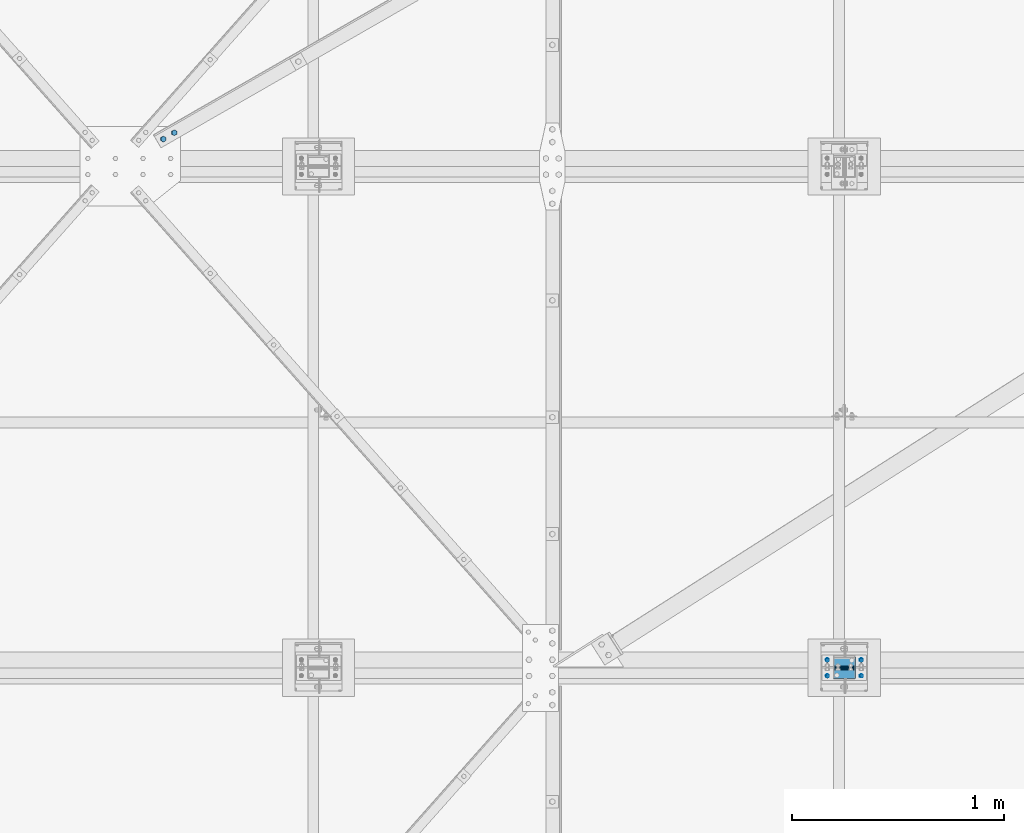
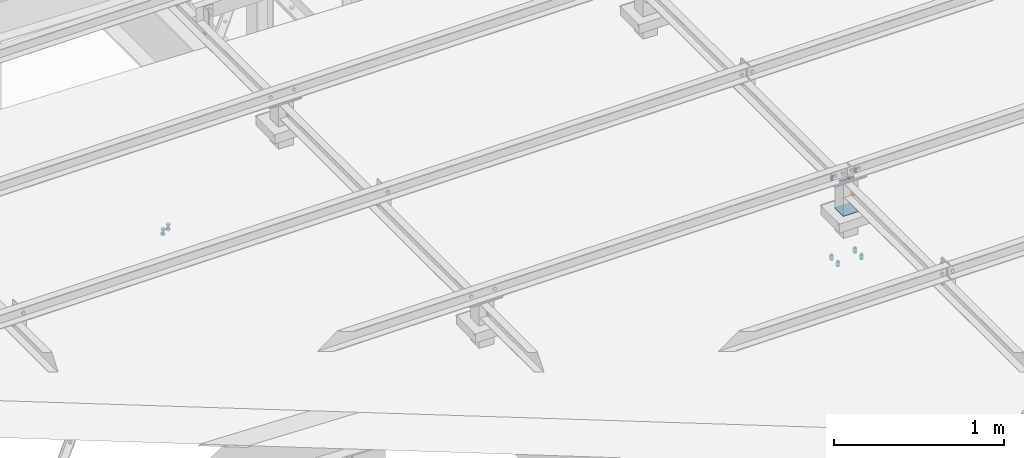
# One storey, part 331 of 3134: 6 mechanical fasteners, 5 elements without a shape of their own.
"""IFC2X3 building model written with IfcOpenShell, lengths in millimetres."""

from ifc_helpers import new_model, si_unit, frame, origin_with_axes, place, context, subcontext, project, spatial, faceted_brep, source, transform, mapped, material, type_object, element, aggregate, save


model = new_model("IFC2X3")

# Units and contexts
model_context = context("Model", 3, precision=1e-05, world=origin_with_axes())
body_context = subcontext(model_context, "Body", "Model", "MODEL_VIEW")
ifc_project = project(units=[si_unit("LENGTHUNIT", "METRE", prefix="MILLI"), si_unit("AREAUNIT", "SQUARE_METRE"), si_unit("VOLUMEUNIT", "CUBIC_METRE"), si_unit("MASSUNIT", "GRAM", prefix="KILO"), si_unit("TIMEUNIT", "SECOND"), si_unit("PLANEANGLEUNIT", "RADIAN"), si_unit("SOLIDANGLEUNIT", "STERADIAN"), si_unit("THERMODYNAMICTEMPERATUREUNIT", "DEGREE_CELSIUS"), si_unit("LUMINOUSINTENSITYUNIT", "LUMEN")], contexts=[model_context])

# Site, building, storey
site_placement = place(None, origin_with_axes())
site = spatial("IfcSite", under=ifc_project, at=site_placement, CompositionType="ELEMENT")
building_placement = place(site_placement, origin_with_axes())
building = spatial("IfcBuilding", under=site, at=building_placement, Name="Undefined", CompositionType="ELEMENT")
storey_placement = place(building_placement, origin_with_axes())
storey = spatial("IfcBuildingStorey", under=building, at=storey_placement, Name="Undefined", CompositionType="ELEMENT", Elevation=0.0)

# Assembly, mechanical fastener
assembly_1_placement = place(storey_placement, origin_with_axes())
assembly_1 = element("IfcElementAssembly", 1, at=assembly_1_placement, inside=storey, AssemblyPlace="NOTDEFINED", PredefinedType="RIGID_FRAME")
ifc_material_1 = material(Name="8.8")
mechanical_fastener_type = type_object("IfcMechanicalFastenerType", Name="Bolt assembly")
shared_shape_1 = source(origin_with_axes(), body_context, "Body", "Brep", [
    faceted_brep([(10.9696551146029, -14.0, 0.0), (5.48482755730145, -14.0, 9.5), (-5.48482755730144, -14.0, 9.5), (-10.9696551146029, -14.0, 1.34339530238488e-15), (-5.48482755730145, -14.0, -9.5), (5.48482755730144, -14.0, -9.50000000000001), (5.48482755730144, -6.0, -9.50000000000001), (-5.48482755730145, -6.0, -9.5), (-10.9696551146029, -6.0, 1.34339530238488e-15), (-5.48482755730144, -6.0, 9.5), (5.48482755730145, -6.0, 9.5), (10.9696551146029, -6.0, 0.0), (6.0, -6.0, 0.0), (5.19615242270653, -6.0, 3.00000000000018), (2.99999999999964, -6.0, 5.19615242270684), (-6.21801588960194e-13, -6.0, 6.0), (-3.00000000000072, -6.0, 5.19615242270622), (-5.19615242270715, -6.0, 2.9999999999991), (-6.0, -6.0, -1.24360317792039e-12), (-5.19615242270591, -6.0, -3.00000000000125), (-2.99999999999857, -6.0, -5.19615242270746), (1.85874342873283e-12, -6.0, -6.0), (3.00000000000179, -6.0, -5.1961524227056), (5.19615242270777, -6.0, -2.99999999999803), (5.19615242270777, 24.0, -2.99999999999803), (3.00000000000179, 24.0, -5.1961524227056), (1.85874342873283e-12, 24.0, -6.0), (-2.99999999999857, 24.0, -5.19615242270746), (-5.19615242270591, 24.0, -3.00000000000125), (-6.0, 24.0, -1.24360317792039e-12), (-5.19615242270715, 24.0, 2.9999999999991), (-3.00000000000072, 24.0, 5.19615242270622), (-6.21801588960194e-13, 24.0, 6.0), (2.99999999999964, 24.0, 5.19615242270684), (5.19615242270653, 24.0, 3.00000000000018), (6.0, 24.0, 0.0), (10.9696551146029, 6.00000000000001, 0.0), (5.48482755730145, 6.00000000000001, 9.5), (-5.48482755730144, 6.00000000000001, 9.5), (-10.9696551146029, 6.00000000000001, 1.34339530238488e-15), (-5.48482755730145, 6.00000000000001, -9.5), (5.48482755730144, 6.00000000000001, -9.50000000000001), (5.48482755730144, 16.0, -9.50000000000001), (-5.48482755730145, 16.0, -9.5), (-10.9696551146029, 16.0, 1.34339530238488e-15), (-5.48482755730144, 16.0, 9.5), (5.48482755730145, 16.0, 9.5), (10.9696551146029, 16.0, 0.0)], [[[0, 1, 2, 3, 4, 5]], [[6, 7, 8, 9, 10, 11]], [[0, 11, 10, 1]], [[1, 10, 9, 2]], [[2, 9, 8, 3]], [[3, 8, 7, 4]], [[4, 7, 6, 5]], [[5, 6, 11, 0]], [[12, 13, 14, 15, 16, 17, 18, 19, 20, 21, 22, 23]], [[24, 25, 26, 27, 28, 29, 30, 31, 32, 33, 34, 35]], [[12, 35, 34, 13]], [[13, 34, 33, 14]], [[14, 33, 32, 15]], [[15, 32, 31, 16]], [[16, 31, 30, 17]], [[17, 30, 29, 18]], [[18, 29, 28, 19]], [[19, 28, 27, 20]], [[20, 27, 26, 21]], [[21, 26, 25, 22]], [[22, 25, 24, 23]], [[23, 24, 35, 12]], [[36, 37, 38, 39, 40, 41]], [[42, 43, 44, 45, 46, 47]], [[36, 47, 46, 37]], [[37, 46, 45, 38]], [[38, 45, 44, 39]], [[39, 44, 43, 40]], [[40, 43, 42, 41]], [[41, 42, 47, 36]]]),
    faceted_brep([(7.0, -0.1, 0.0), (6.06217782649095, -0.1, 3.50000000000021), (3.49999999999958, -0.1, 6.06217782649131), (-7.25435187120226e-13, -0.1, 7.0), (-3.50000000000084, -0.1, 6.06217782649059), (-6.06217782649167, -0.1, 3.49999999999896), (-7.0, -0.1, -1.45087037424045e-12), (-6.06217782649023, -0.1, -3.50000000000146), (-3.49999999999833, -0.1, -6.06217782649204), (2.1685340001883e-12, -0.1, -7.0), (3.50000000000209, -0.1, -6.06217782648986), (6.0621778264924, -0.1, -3.4999999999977), (6.0621778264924, 6.00000000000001, -3.4999999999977), (3.50000000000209, 6.00000000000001, -6.06217782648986), (2.1685340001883e-12, 6.00000000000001, -7.0), (-3.49999999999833, 6.00000000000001, -6.06217782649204), (-6.06217782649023, 6.00000000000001, -3.50000000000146), (-7.0, 6.00000000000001, -1.45087037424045e-12), (-6.06217782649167, 6.00000000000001, 3.49999999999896), (-3.50000000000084, 6.00000000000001, 6.06217782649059), (-7.25435187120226e-13, 6.00000000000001, 7.0), (3.49999999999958, 6.00000000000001, 6.06217782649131), (6.06217782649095, 6.00000000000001, 3.50000000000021), (7.0, 6.00000000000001, 0.0), (7.0, -5.9, 0.0), (6.06217782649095, -5.9, 3.50000000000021), (3.49999999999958, -5.9, 6.06217782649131), (-7.25435187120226e-13, -5.9, 7.0), (-3.50000000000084, -5.9, 6.06217782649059), (-6.06217782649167, -5.9, 3.49999999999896), (-7.0, -5.9, -1.45087037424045e-12), (-6.06217782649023, -5.9, -3.50000000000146), (-3.49999999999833, -5.9, -6.06217782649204), (2.1685340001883e-12, -5.9, -7.0), (3.50000000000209, -5.9, -6.06217782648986), (6.0621778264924, -5.9, -3.4999999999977), (6.0621778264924, 0.0999999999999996, -3.4999999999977), (3.50000000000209, 0.0999999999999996, -6.06217782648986), (2.1685340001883e-12, 0.0999999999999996, -7.0), (-3.49999999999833, 0.0999999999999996, -6.06217782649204), (-6.06217782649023, 0.0999999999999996, -3.50000000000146), (-7.0, 0.0999999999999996, -1.45087037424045e-12), (-6.06217782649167, 0.0999999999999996, 3.49999999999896), (-3.50000000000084, 0.0999999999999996, 6.06217782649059), (-7.25435187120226e-13, 0.0999999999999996, 7.0), (3.49999999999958, 0.0999999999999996, 6.06217782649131), (6.06217782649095, 0.0999999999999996, 3.50000000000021), (7.0, 0.0999999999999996, 0.0)], [[[0, 1, 2, 3, 4, 5, 6, 7, 8, 9, 10, 11]], [[12, 13, 14, 15, 16, 17, 18, 19, 20, 21, 22, 23]], [[0, 23, 22, 1]], [[1, 22, 21, 2]], [[2, 21, 20, 3]], [[3, 20, 19, 4]], [[4, 19, 18, 5]], [[5, 18, 17, 6]], [[6, 17, 16, 7]], [[7, 16, 15, 8]], [[8, 15, 14, 9]], [[9, 14, 13, 10]], [[10, 13, 12, 11]], [[11, 12, 23, 0]], [[24, 25, 26, 27, 28, 29, 30, 31, 32, 33, 34, 35]], [[36, 37, 38, 39, 40, 41, 42, 43, 44, 45, 46, 47]], [[24, 47, 46, 25]], [[25, 46, 45, 26]], [[26, 45, 44, 27]], [[27, 44, 43, 28]], [[28, 43, 42, 29]], [[29, 42, 41, 30]], [[30, 41, 40, 31]], [[31, 40, 39, 32]], [[32, 39, 38, 33]], [[33, 38, 37, 34]], [[34, 37, 36, 35]], [[35, 36, 47, 24]]]),
])
mechanical_fastener_1_placement = place(assembly_1_placement, frame((73075.0, 10045.0, 5850.0), z_axis=(1.0, 0.0, 0.0), x_axis=(0.0, -1.0, 0.0)))
mechanical_fastener_1 = element("IfcMechanicalFastener", 2, at=mechanical_fastener_1_placement, type_object=mechanical_fastener_type, material=ifc_material_1, Name="Bolt assembly", NominalDiameter=12.0, NominalLength=30.0, context=body_context, shape_type="MappedRepresentation", body=[
    mapped(shared_shape_1, transform((0.0, -5.32963895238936e-10, -79.9999999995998))),
    mapped(shared_shape_1, transform((0.0, 5.3114490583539e-10, 79.9999999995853))),
])
aggregate(assembly_1, [mechanical_fastener_1])

assembly_2_placement = place(storey_placement, origin_with_axes())
assembly_2 = element("IfcElementAssembly", 3, at=assembly_2_placement, inside=storey, AssemblyPlace="NOTDEFINED", PredefinedType="RIGID_FRAME")
shared_shape_2 = source(origin_with_axes(), body_context, "Body", "Brep", [
    faceted_brep([(7.0, 13.0000253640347, 0.0), (6.06217782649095, 13.0000253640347, 3.50000000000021), (3.49999999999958, 13.0000253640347, 6.06217782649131), (-7.25435187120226e-13, 13.0000253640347, 7.0), (-3.50000000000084, 13.0000253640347, 6.06217782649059), (-6.06217782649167, 13.0000253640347, 3.49999999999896), (-7.0, 13.0000253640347, -1.45087037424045e-12), (-6.06217782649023, 13.0000253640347, -3.50000000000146), (-3.49999999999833, 13.0000253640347, -6.06217782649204), (2.1685340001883e-12, 13.0000253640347, -7.0), (3.50000000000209, 13.0000253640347, -6.06217782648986), (6.0621778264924, 13.0000253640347, -3.4999999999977), (6.0621778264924, 15.0999999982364, -3.4999999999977), (3.50000000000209, 15.0999999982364, -6.06217782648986), (2.1685340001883e-12, 15.0999999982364, -7.0), (-3.49999999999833, 15.0999999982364, -6.06217782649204), (-6.06217782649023, 15.0999999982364, -3.50000000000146), (-7.0, 15.0999999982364, -1.45087037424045e-12), (-6.06217782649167, 15.0999999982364, 3.49999999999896), (-3.50000000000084, 15.0999999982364, 6.06217782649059), (-7.25435187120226e-13, 15.0999999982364, 7.0), (3.49999999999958, 15.0999999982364, 6.06217782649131), (6.06217782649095, 15.0999999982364, 3.50000000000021), (7.0, 15.0999999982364, 0.0)], [[[0, 1, 2, 3, 4, 5, 6, 7, 8, 9, 10, 11]], [[12, 13, 14, 15, 16, 17, 18, 19, 20, 21, 22, 23]], [[0, 23, 22, 1]], [[1, 22, 21, 2]], [[2, 21, 20, 3]], [[3, 20, 19, 4]], [[4, 19, 18, 5]], [[5, 18, 17, 6]], [[6, 17, 16, 7]], [[7, 16, 15, 8]], [[8, 15, 14, 9]], [[9, 14, 13, 10]], [[10, 13, 12, 11]], [[11, 12, 23, 0]]]),
])
mechanical_fastener_2_placement = place(assembly_2_placement, frame((73074.3451187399, 10048.0, 5255.7372055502), z_axis=(-0.99951962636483, 0.0, 0.0309922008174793), x_axis=(0.0, -1.0, 0.0)))
mechanical_fastener_2 = element("IfcMechanicalFastener", 4, at=mechanical_fastener_2_placement, type_object=mechanical_fastener_type, material=ifc_material_1, Name="Bolt assembly", NominalDiameter=12.0, NominalLength=2.0, context=body_context, shape_type="MappedRepresentation", body=[
    mapped(shared_shape_2, transform((0.0, -5.32963895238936e-10, -79.9999999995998))),
    mapped(shared_shape_2, transform((76.0, -5.32963895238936e-10, -79.9999999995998))),
    mapped(shared_shape_2, transform((0.0, 5.3114490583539e-10, 79.9999999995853))),
    mapped(shared_shape_2, transform((76.0, 5.3114490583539e-10, 79.9999999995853))),
])
aggregate(assembly_2, [mechanical_fastener_2])

# Assembly, mechanical fasteners
assembly_3_placement = place(storey_placement, origin_with_axes())
assembly_3 = element("IfcElementAssembly", 5, at=assembly_3_placement, inside=storey, AssemblyPlace="NOTDEFINED", PredefinedType="RIGID_FRAME")
shared_shape_3 = source(origin_with_axes(), body_context, "Body", "Brep", [
    faceted_brep([(9.0, -50.0, 0.0), (7.79422863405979, -50.0, 4.50000000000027), (4.49999999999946, -50.0, 7.79422863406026), (-9.3270238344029e-13, -50.0, 9.0), (-4.50000000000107, -50.0, 7.79422863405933), (-7.79422863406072, -50.0, 4.49999999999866), (-9.0, -50.0, -1.86540476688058e-12), (-7.79422863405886, -50.0, -4.50000000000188), (-4.49999999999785, -50.0, -7.79422863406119), (2.78811514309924e-12, -50.0, -9.0), (4.50000000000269, -50.0, -7.7942286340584), (7.79422863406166, -50.0, -4.49999999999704), (7.79422863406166, 50.1, -4.49999999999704), (4.50000000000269, 50.1, -7.7942286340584), (2.78811514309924e-12, 50.1, -9.0), (-4.49999999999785, 50.1, -7.79422863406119), (-7.79422863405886, 50.1, -4.50000000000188), (-9.0, 50.1, -1.86540476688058e-12), (-7.79422863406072, 50.1, 4.49999999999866), (-4.50000000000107, 50.1, 7.79422863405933), (-9.3270238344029e-13, 50.1, 9.0), (4.49999999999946, 50.1, 7.79422863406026), (7.79422863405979, 50.1, 4.50000000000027), (9.0, 50.1, 0.0)], [[[0, 1, 2, 3, 4, 5, 6, 7, 8, 9, 10, 11]], [[12, 13, 14, 15, 16, 17, 18, 19, 20, 21, 22, 23]], [[0, 23, 22, 1]], [[1, 22, 21, 2]], [[2, 21, 20, 3]], [[3, 20, 19, 4]], [[4, 19, 18, 5]], [[5, 18, 17, 6]], [[6, 17, 16, 7]], [[7, 16, 15, 8]], [[8, 15, 14, 9]], [[9, 14, 13, 10]], [[10, 13, 12, 11]], [[11, 12, 23, 0]]]),
])
mechanical_fastener_3_placement = place(assembly_3_placement, frame((73075.0, 10010.0, 5830.0), z_axis=(0.0, 1.0, 0.0), x_axis=(0.0, 0.0, 1.0)))
mechanical_fastener_3 = element("IfcMechanicalFastener", 6, at=mechanical_fastener_3_placement, type_object=mechanical_fastener_type, material=ifc_material_1, Name="Bolt assembly", NominalDiameter=16.0, NominalLength=100.0, context=body_context, shape_type="MappedRepresentation", body=[
    mapped(shared_shape_3, transform((0.0, 0.0, 0.0))),
])
ifc_material_2 = material(Name="6.8")
shared_shape_4 = source(origin_with_axes(), body_context, "Body", "Brep", [
    faceted_brep([(51.5, 1.36424205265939e-12, 50.0), (51.3858192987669, 1.36424205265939e-12, 50.5740251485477), (51.0606601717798, 1.36424205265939e-12, 51.0606601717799), (50.5740251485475, 1.36424205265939e-12, 51.385819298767), (-50.0000000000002, 1.36424205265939e-12, 51.5), (-50.7500000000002, 1.36424205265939e-12, 51.2990381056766), (-51.2990381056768, 1.36424205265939e-12, 50.7499999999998), (-51.5, 1.36424205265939e-12, 49.9999999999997), (-51.5, 1.36424205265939e-12, -50.0000000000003), (-51.2990381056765, 1.36424205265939e-12, -50.7500000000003), (-50.7499999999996, 1.36424205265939e-12, -51.2990381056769), (-49.9999999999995, 1.36424205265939e-12, -51.5), (50.0000000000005, 1.36424205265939e-12, -51.5), (50.7500000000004, 1.36424205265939e-12, -51.2990381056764), (51.2990381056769, 1.36424205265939e-12, -50.7499999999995), (51.5, 1.36424205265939e-12, -49.9999999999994), (51.5, 5.10000000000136, -49.9999999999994), (51.2990381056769, 5.10000000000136, -50.7499999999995), (50.7500000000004, 5.10000000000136, -51.2990381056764), (50.0000000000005, 5.10000000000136, -51.5), (-49.9999999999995, 5.10000000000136, -51.5), (-50.7499999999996, 5.10000000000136, -51.2990381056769), (-51.2990381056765, 5.10000000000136, -50.7500000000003), (-51.5, 5.10000000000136, -50.0000000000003), (-51.5, 5.10000000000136, 49.9999999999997), (-51.2990381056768, 5.10000000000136, 50.7499999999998), (-50.7500000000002, 5.10000000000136, 51.2990381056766), (-50.0000000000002, 5.10000000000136, 51.5), (50.5740251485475, 5.10000000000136, 51.385819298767), (51.0606601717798, 5.10000000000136, 51.0606601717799), (51.3858192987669, 5.10000000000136, 50.5740251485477), (51.5, 5.10000000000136, 50.0)], [[[0, 1, 2, 3, 4, 5, 6, 7, 8, 9, 10, 11, 12, 13, 14, 15]], [[16, 17, 18, 19, 20, 21, 22, 23, 24, 25, 26, 27, 28, 29, 30, 31]], [[0, 31, 30, 1]], [[1, 30, 29, 2]], [[2, 29, 28, 3]], [[3, 28, 27, 4]], [[4, 27, 26, 5]], [[5, 26, 25, 6]], [[6, 25, 24, 7]], [[7, 24, 23, 8]], [[8, 23, 22, 9]], [[9, 22, 21, 10]], [[10, 21, 20, 11]], [[11, 20, 19, 12]], [[12, 19, 18, 13]], [[13, 18, 17, 14]], [[14, 17, 16, 15]], [[15, 16, 31, 0]]]),
])
mechanical_fastener_4_placement = place(assembly_3_placement, frame((73075.0, 10010.0, 5610.44), z_axis=(0.0, -1.0, 0.0), x_axis=(-1.0, 0.0, 0.0)))
mechanical_fastener_4 = element("IfcMechanicalFastener", 7, at=mechanical_fastener_4_placement, type_object=mechanical_fastener_type, material=ifc_material_2, Name="Bolt assembly", NominalDiameter=10.0, NominalLength=5.0, context=body_context, shape_type="MappedRepresentation", body=[
    mapped(shared_shape_4, transform((0.0, 0.0, 0.0))),
])
aggregate(assembly_3, [mechanical_fastener_3, mechanical_fastener_4])

# Assembly, mechanical fastener
assembly_4_placement = place(storey_placement, origin_with_axes())
assembly_4 = element("IfcElementAssembly", 8, at=assembly_4_placement, inside=storey, Name="300", AssemblyPlace="NOTDEFINED", PredefinedType="RIGID_FRAME")
shared_shape_5 = source(origin_with_axes(), body_context, "Body", "Brep", [
    faceted_brep([(10.9696551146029, -10.2005277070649, 0.0), (5.48482755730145, -10.2005277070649, 9.5), (-5.48482755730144, -10.2005277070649, 9.5), (-10.9696551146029, -10.2005277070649, 1.34339530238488e-15), (-5.48482755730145, -10.2005277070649, -9.5), (5.48482755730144, -10.2005277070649, -9.50000000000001), (5.48482755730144, -2.20052770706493, -9.50000000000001), (-5.48482755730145, -2.20052770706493, -9.5), (-10.9696551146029, -2.20052770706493, 1.34339530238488e-15), (-5.48482755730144, -2.20052770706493, 9.5), (5.48482755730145, -2.20052770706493, 9.5), (10.9696551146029, -2.20052770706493, 0.0), (6.0, -2.20052770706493, 0.0), (5.19615242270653, -2.20052770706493, 3.00000000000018), (2.99999999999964, -2.20052770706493, 5.19615242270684), (-6.21801588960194e-13, -2.20052770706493, 6.0), (-3.00000000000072, -2.20052770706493, 5.19615242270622), (-5.19615242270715, -2.20052770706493, 2.9999999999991), (-6.0, -2.20052770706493, -1.24360317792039e-12), (-5.19615242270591, -2.20052770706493, -3.00000000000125), (-2.99999999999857, -2.20052770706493, -5.19615242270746), (1.85874342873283e-12, -2.20052770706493, -6.0), (3.00000000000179, -2.20052770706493, -5.1961524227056), (5.19615242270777, -2.20052770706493, -2.99999999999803), (5.19615242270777, 32.7994722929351, -2.99999999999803), (3.00000000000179, 32.7994722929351, -5.1961524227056), (1.85874342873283e-12, 32.7994722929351, -6.0), (-2.99999999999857, 32.7994722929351, -5.19615242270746), (-5.19615242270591, 32.7994722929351, -3.00000000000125), (-6.0, 32.7994722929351, -1.24360317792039e-12), (-5.19615242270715, 32.7994722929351, 2.9999999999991), (-3.00000000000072, 32.7994722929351, 5.19615242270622), (-6.21801588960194e-13, 32.7994722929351, 6.0), (2.99999999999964, 32.7994722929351, 5.19615242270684), (5.19615242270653, 32.7994722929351, 3.00000000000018), (6.0, 32.7994722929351, 0.0), (10.9696551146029, 17.0008987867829, 0.0), (5.48482755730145, 17.0008987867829, 9.5), (-5.48482755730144, 17.0008987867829, 9.5), (-10.9696551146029, 17.0008987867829, 1.34339530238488e-15), (-5.48482755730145, 17.0008987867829, -9.5), (5.48482755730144, 17.0008987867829, -9.50000000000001), (5.48482755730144, 27.0008987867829, -9.50000000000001), (-5.48482755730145, 27.0008987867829, -9.5), (-10.9696551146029, 27.0008987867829, 1.34339530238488e-15), (-5.48482755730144, 27.0008987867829, 9.5), (5.48482755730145, 27.0008987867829, 9.5), (10.9696551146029, 27.0008987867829, 0.0)], [[[0, 1, 2, 3, 4, 5]], [[6, 7, 8, 9, 10, 11]], [[0, 11, 10, 1]], [[1, 10, 9, 2]], [[2, 9, 8, 3]], [[3, 8, 7, 4]], [[4, 7, 6, 5]], [[5, 6, 11, 0]], [[12, 13, 14, 15, 16, 17, 18, 19, 20, 21, 22, 23]], [[24, 25, 26, 27, 28, 29, 30, 31, 32, 33, 34, 35]], [[12, 35, 34, 13]], [[13, 34, 33, 14]], [[14, 33, 32, 15]], [[15, 32, 31, 16]], [[16, 31, 30, 17]], [[17, 30, 29, 18]], [[18, 29, 28, 19]], [[19, 28, 27, 20]], [[20, 27, 26, 21]], [[21, 26, 25, 22]], [[22, 25, 24, 23]], [[23, 24, 35, 12]], [[36, 37, 38, 39, 40, 41]], [[42, 43, 44, 45, 46, 47]], [[36, 47, 46, 37]], [[37, 46, 45, 38]], [[38, 45, 44, 39]], [[39, 44, 43, 40]], [[40, 43, 42, 41]], [[41, 42, 47, 36]]]),
    faceted_brep([(7.0, 8.90089878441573, 0.0), (6.06217782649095, 8.90089878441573, 3.50000000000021), (3.49999999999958, 8.90089878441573, 6.06217782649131), (-7.25435187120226e-13, 8.90089878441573, 7.0), (-3.50000000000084, 8.90089878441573, 6.06217782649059), (-6.06217782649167, 8.90089878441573, 3.49999999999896), (-7.0, 8.90089878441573, -1.45087037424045e-12), (-6.06217782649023, 8.90089878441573, -3.50000000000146), (-3.49999999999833, 8.90089878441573, -6.06217782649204), (2.1685340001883e-12, 8.90089878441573, -7.0), (3.50000000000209, 8.90089878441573, -6.06217782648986), (6.0621778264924, 8.90089878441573, -3.4999999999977), (6.0621778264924, 17.0008987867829, -3.4999999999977), (3.50000000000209, 17.0008987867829, -6.06217782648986), (2.1685340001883e-12, 17.0008987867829, -7.0), (-3.49999999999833, 17.0008987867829, -6.06217782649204), (-6.06217782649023, 17.0008987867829, -3.50000000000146), (-7.0, 17.0008987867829, -1.45087037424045e-12), (-6.06217782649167, 17.0008987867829, 3.49999999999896), (-3.50000000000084, 17.0008987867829, 6.06217782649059), (-7.25435187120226e-13, 17.0008987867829, 7.0), (3.49999999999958, 17.0008987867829, 6.06217782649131), (6.06217782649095, 17.0008987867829, 3.50000000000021), (7.0, 17.0008987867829, 0.0), (7.0, -2.10052770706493, 0.0), (6.06217782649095, -2.10052770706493, 3.50000000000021), (3.49999999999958, -2.10052770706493, 6.06217782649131), (-7.25435187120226e-13, -2.10052770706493, 7.0), (-3.50000000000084, -2.10052770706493, 6.06217782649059), (-6.06217782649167, -2.10052770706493, 3.49999999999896), (-7.0, -2.10052770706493, -1.45087037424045e-12), (-6.06217782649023, -2.10052770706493, -3.50000000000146), (-3.49999999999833, -2.10052770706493, -6.06217782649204), (2.1685340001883e-12, -2.10052770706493, -7.0), (3.50000000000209, -2.10052770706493, -6.06217782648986), (6.0621778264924, -2.10052770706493, -3.4999999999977), (6.0621778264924, 7.09947210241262, -3.4999999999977), (3.50000000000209, 7.09947210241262, -6.06217782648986), (2.1685340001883e-12, 7.09947210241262, -7.0), (-3.49999999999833, 7.09947210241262, -6.06217782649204), (-6.06217782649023, 7.09947210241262, -3.50000000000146), (-7.0, 7.09947210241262, -1.45087037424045e-12), (-6.06217782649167, 7.09947210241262, 3.49999999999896), (-3.50000000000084, 7.09947210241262, 6.06217782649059), (-7.25435187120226e-13, 7.09947210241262, 7.0), (3.49999999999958, 7.09947210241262, 6.06217782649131), (6.06217782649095, 7.09947210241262, 3.50000000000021), (7.0, 7.09947210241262, 0.0)], [[[0, 1, 2, 3, 4, 5, 6, 7, 8, 9, 10, 11]], [[12, 13, 14, 15, 16, 17, 18, 19, 20, 21, 22, 23]], [[0, 23, 22, 1]], [[1, 22, 21, 2]], [[2, 21, 20, 3]], [[3, 20, 19, 4]], [[4, 19, 18, 5]], [[5, 18, 17, 6]], [[6, 17, 16, 7]], [[7, 16, 15, 8]], [[8, 15, 14, 9]], [[9, 14, 13, 10]], [[10, 13, 12, 11]], [[11, 12, 23, 0]], [[24, 25, 26, 27, 28, 29, 30, 31, 32, 33, 34, 35]], [[36, 37, 38, 39, 40, 41, 42, 43, 44, 45, 46, 47]], [[24, 47, 46, 25]], [[25, 46, 45, 26]], [[26, 45, 44, 27]], [[27, 44, 43, 28]], [[28, 43, 42, 29]], [[29, 42, 41, 30]], [[30, 41, 40, 31]], [[31, 40, 39, 32]], [[32, 39, 38, 33]], [[33, 38, 37, 34]], [[34, 37, 36, 35]], [[35, 36, 47, 24]]]),
])
mechanical_fastener_5_placement = place(assembly_4_placement, frame((73074.5351187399, 10048.0, 5261.7372055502), z_axis=(-0.99951962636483, 0.0, 0.0309922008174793), x_axis=(0.0, -1.0, 0.0)))
mechanical_fastener_5 = element("IfcMechanicalFastener", 9, at=mechanical_fastener_5_placement, type_object=mechanical_fastener_type, material=ifc_material_1, Name="Bolt assembly", NominalDiameter=12.0, NominalLength=35.0, context=body_context, shape_type="MappedRepresentation", body=[
    mapped(shared_shape_5, transform((0.0, -5.32963895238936e-10, -79.9999999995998))),
    mapped(shared_shape_5, transform((76.0, -5.32963895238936e-10, -79.9999999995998))),
    mapped(shared_shape_5, transform((0.0, 5.3114490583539e-10, 79.9999999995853))),
    mapped(shared_shape_5, transform((76.0, 5.3114490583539e-10, 79.9999999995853))),
])
aggregate(assembly_4, [mechanical_fastener_5])

assembly_5_placement = place(storey_placement, origin_with_axes())
assembly_5 = element("IfcElementAssembly", 10, at=assembly_5_placement, inside=storey, AssemblyPlace="NOTDEFINED", PredefinedType="RIGID_FRAME")
shared_shape_6 = source(origin_with_axes(), body_context, "Body", "Brep", [
    faceted_brep([(13.856406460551, -20.9979467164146, 0.0), (6.92820323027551, -20.9979467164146, 12.0), (-6.92820323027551, -20.9979467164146, 12.0), (-13.856406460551, -20.9979467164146, 1.69692038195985e-15), (-6.92820323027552, -20.9979467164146, -12.0), (6.9282032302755, -20.9979467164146, -12.0), (6.9282032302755, -10.9979467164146, -12.0), (-6.92820323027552, -10.9979467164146, -12.0), (-13.856406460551, -10.9979467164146, 1.69692038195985e-15), (-6.92820323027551, -10.9979467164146, 12.0), (6.92820323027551, -10.9979467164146, 12.0), (13.856406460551, -10.9979467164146, 0.0), (8.0, -10.9979467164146, 0.0), (6.92820323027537, -10.9979467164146, 4.00000000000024), (3.99999999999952, -10.9979467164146, 6.92820323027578), (-8.29068785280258e-13, -10.9979467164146, 8.0), (-4.00000000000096, -10.9979467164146, 6.92820323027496), (-6.9282032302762, -10.9979467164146, 3.99999999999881), (-8.0, -10.9979467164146, -1.65813757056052e-12), (-6.92820323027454, -10.9979467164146, -4.00000000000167), (-3.99999999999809, -10.9979467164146, -6.92820323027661), (2.47832457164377e-12, -10.9979467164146, -8.0), (4.00000000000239, -10.9979467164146, -6.92820323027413), (6.92820323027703, -10.9979467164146, -3.99999999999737), (6.92820323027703, 29.0020532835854, -3.99999999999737), (4.00000000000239, 29.0020532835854, -6.92820323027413), (2.47832457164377e-12, 29.0020532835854, -8.0), (-3.99999999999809, 29.0020532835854, -6.92820323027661), (-6.92820323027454, 29.0020532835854, -4.00000000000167), (-8.0, 29.0020532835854, -1.65813757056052e-12), (-6.9282032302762, 29.0020532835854, 3.99999999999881), (-4.00000000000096, 29.0020532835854, 6.92820323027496), (-8.29068785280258e-13, 29.0020532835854, 8.0), (3.99999999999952, 29.0020532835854, 6.92820323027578), (6.92820323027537, 29.0020532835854, 4.00000000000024), (8.0, 29.0020532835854, 0.0), (13.856406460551, 10.9989611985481, 0.0), (6.92820323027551, 10.9989611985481, 12.0), (-6.92820323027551, 10.9989611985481, 12.0), (-13.856406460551, 10.9989611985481, 1.69692038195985e-15), (-6.92820323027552, 10.9989611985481, -12.0), (6.9282032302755, 10.9989611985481, -12.0), (6.9282032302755, 23.9989611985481, -12.0), (-6.92820323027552, 23.9989611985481, -12.0), (-13.856406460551, 23.9989611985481, 1.69692038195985e-15), (-6.92820323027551, 23.9989611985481, 12.0), (6.92820323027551, 23.9989611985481, 12.0), (13.856406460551, 23.9989611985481, 0.0)], [[[0, 1, 2, 3, 4, 5]], [[6, 7, 8, 9, 10, 11]], [[0, 11, 10, 1]], [[1, 10, 9, 2]], [[2, 9, 8, 3]], [[3, 8, 7, 4]], [[4, 7, 6, 5]], [[5, 6, 11, 0]], [[12, 13, 14, 15, 16, 17, 18, 19, 20, 21, 22, 23]], [[24, 25, 26, 27, 28, 29, 30, 31, 32, 33, 34, 35]], [[12, 35, 34, 13]], [[13, 34, 33, 14]], [[14, 33, 32, 15]], [[15, 32, 31, 16]], [[16, 31, 30, 17]], [[17, 30, 29, 18]], [[18, 29, 28, 19]], [[19, 28, 27, 20]], [[20, 27, 26, 21]], [[21, 26, 25, 22]], [[22, 25, 24, 23]], [[23, 24, 35, 12]], [[36, 37, 38, 39, 40, 41]], [[42, 43, 44, 45, 46, 47]], [[36, 47, 46, 37]], [[37, 46, 45, 38]], [[38, 45, 44, 39]], [[39, 44, 43, 40]], [[40, 43, 42, 41]], [[41, 42, 47, 36]]]),
    faceted_brep([(9.0, -10.8979467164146, 0.0), (7.79422863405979, -10.8979467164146, 4.50000000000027), (4.49999999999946, -10.8979467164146, 7.79422863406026), (-9.3270238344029e-13, -10.8979467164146, 9.0), (-4.50000000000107, -10.8979467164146, 7.79422863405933), (-7.79422863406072, -10.8979467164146, 4.49999999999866), (-9.0, -10.8979467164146, -1.86540476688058e-12), (-7.79422863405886, -10.8979467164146, -4.50000000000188), (-4.49999999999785, -10.8979467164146, -7.79422863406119), (2.78811514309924e-12, -10.8979467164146, -9.0), (4.50000000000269, -10.8979467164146, -7.7942286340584), (7.79422863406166, -10.8979467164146, -4.49999999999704), (7.79422863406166, -3.89794671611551, -4.49999999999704), (4.50000000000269, -3.89794671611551, -7.7942286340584), (2.78811514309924e-12, -3.89794671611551, -9.0), (-4.49999999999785, -3.89794671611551, -7.79422863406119), (-7.79422863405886, -3.89794671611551, -4.50000000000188), (-9.0, -3.89794671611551, -1.86540476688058e-12), (-7.79422863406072, -3.89794671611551, 4.49999999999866), (-4.50000000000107, -3.89794671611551, 7.79422863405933), (-9.3270238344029e-13, -3.89794671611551, 9.0), (4.49999999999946, -3.89794671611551, 7.79422863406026), (7.79422863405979, -3.89794671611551, 4.50000000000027), (9.0, -3.89794671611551, 0.0), (9.0, 3.8990111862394, 0.0), (7.79422863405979, 3.8990111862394, 4.50000000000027), (4.49999999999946, 3.8990111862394, 7.79422863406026), (-9.3270238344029e-13, 3.8990111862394, 9.0), (-4.50000000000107, 3.8990111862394, 7.79422863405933), (-7.79422863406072, 3.8990111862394, 4.49999999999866), (-9.0, 3.8990111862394, -1.86540476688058e-12), (-7.79422863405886, 3.8990111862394, -4.50000000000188), (-4.49999999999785, 3.8990111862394, -7.79422863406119), (2.78811514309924e-12, 3.8990111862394, -9.0), (4.50000000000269, 3.8990111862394, -7.7942286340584), (7.79422863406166, 3.8990111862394, -4.49999999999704), (7.79422863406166, 10.9989611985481, -4.49999999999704), (4.50000000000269, 10.9989611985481, -7.7942286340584), (2.78811514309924e-12, 10.9989611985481, -9.0), (-4.49999999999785, 10.9989611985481, -7.79422863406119), (-7.79422863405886, 10.9989611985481, -4.50000000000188), (-9.0, 10.9989611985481, -1.86540476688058e-12), (-7.79422863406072, 10.9989611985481, 4.49999999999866), (-4.50000000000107, 10.9989611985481, 7.79422863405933), (-9.3270238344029e-13, 10.9989611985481, 9.0), (4.49999999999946, 10.9989611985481, 7.79422863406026), (7.79422863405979, 10.9989611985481, 4.50000000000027), (9.0, 10.9989611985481, 0.0), (9.0, -3.99999624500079, 0.0), (7.79422863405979, -3.99999624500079, 4.50000000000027), (4.49999999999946, -3.99999624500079, 7.79422863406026), (-9.3270238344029e-13, -3.99999624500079, 9.0), (-4.50000000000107, -3.99999624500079, 7.79422863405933), (-7.79422863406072, -3.99999624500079, 4.49999999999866), (-9.0, -3.99999624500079, -1.86540476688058e-12), (-7.79422863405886, -3.99999624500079, -4.50000000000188), (-4.49999999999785, -3.99999624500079, -7.79422863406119), (2.78811514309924e-12, -3.99999624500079, -9.0), (4.50000000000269, -3.99999624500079, -7.7942286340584), (7.79422863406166, -3.99999624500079, -4.49999999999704), (7.79422863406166, 4.00000375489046, -4.49999999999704), (4.50000000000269, 4.00000375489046, -7.7942286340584), (2.78811514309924e-12, 4.00000375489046, -9.0), (-4.49999999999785, 4.00000375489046, -7.79422863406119), (-7.79422863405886, 4.00000375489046, -4.50000000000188), (-9.0, 4.00000375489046, -1.86540476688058e-12), (-7.79422863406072, 4.00000375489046, 4.49999999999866), (-4.50000000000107, 4.00000375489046, 7.79422863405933), (-9.3270238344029e-13, 4.00000375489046, 9.0), (4.49999999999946, 4.00000375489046, 7.79422863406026), (7.79422863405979, 4.00000375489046, 4.50000000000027), (9.0, 4.00000375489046, 0.0)], [[[0, 1, 2, 3, 4, 5, 6, 7, 8, 9, 10, 11]], [[12, 13, 14, 15, 16, 17, 18, 19, 20, 21, 22, 23]], [[0, 23, 22, 1]], [[1, 22, 21, 2]], [[2, 21, 20, 3]], [[3, 20, 19, 4]], [[4, 19, 18, 5]], [[5, 18, 17, 6]], [[6, 17, 16, 7]], [[7, 16, 15, 8]], [[8, 15, 14, 9]], [[9, 14, 13, 10]], [[10, 13, 12, 11]], [[11, 12, 23, 0]], [[24, 25, 26, 27, 28, 29, 30, 31, 32, 33, 34, 35]], [[36, 37, 38, 39, 40, 41, 42, 43, 44, 45, 46, 47]], [[24, 47, 46, 25]], [[25, 46, 45, 26]], [[26, 45, 44, 27]], [[27, 44, 43, 28]], [[28, 43, 42, 29]], [[29, 42, 41, 30]], [[30, 41, 40, 31]], [[31, 40, 39, 32]], [[32, 39, 38, 33]], [[33, 38, 37, 34]], [[34, 37, 36, 35]], [[35, 36, 47, 24]], [[48, 49, 50, 51, 52, 53, 54, 55, 56, 57, 58, 59]], [[60, 61, 62, 63, 64, 65, 66, 67, 68, 69, 70, 71]], [[48, 71, 70, 49]], [[49, 70, 69, 50]], [[50, 69, 68, 51]], [[51, 68, 67, 52]], [[52, 67, 66, 53]], [[53, 66, 65, 54]], [[54, 65, 64, 55]], [[55, 64, 63, 56]], [[56, 63, 62, 57]], [[57, 62, 61, 58]], [[58, 61, 60, 59]], [[59, 60, 71, 48]]]),
])
mechanical_fastener_6_placement = place(assembly_5_placement, frame((69920.7623222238, 12529.1860371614, 5065.3618051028), z_axis=(0.497217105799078, -0.867489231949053, -0.0154137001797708), x_axis=(-0.867072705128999, -0.49745596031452, 0.0268792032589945)))
mechanical_fastener_6 = element("IfcMechanicalFastener", 11, at=mechanical_fastener_6_placement, type_object=mechanical_fastener_type, material=ifc_material_1, Name="Bolt assembly", NominalDiameter=16.0, NominalLength=40.0, context=body_context, shape_type="MappedRepresentation", body=[
    mapped(shared_shape_6, transform((0.0, 0.0, 0.0))),
    mapped(shared_shape_6, transform((59.9999999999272, 0.0, 5.40239852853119e-10))),
])
aggregate(assembly_5, [mechanical_fastener_6])

save(model, "model.ifc")
